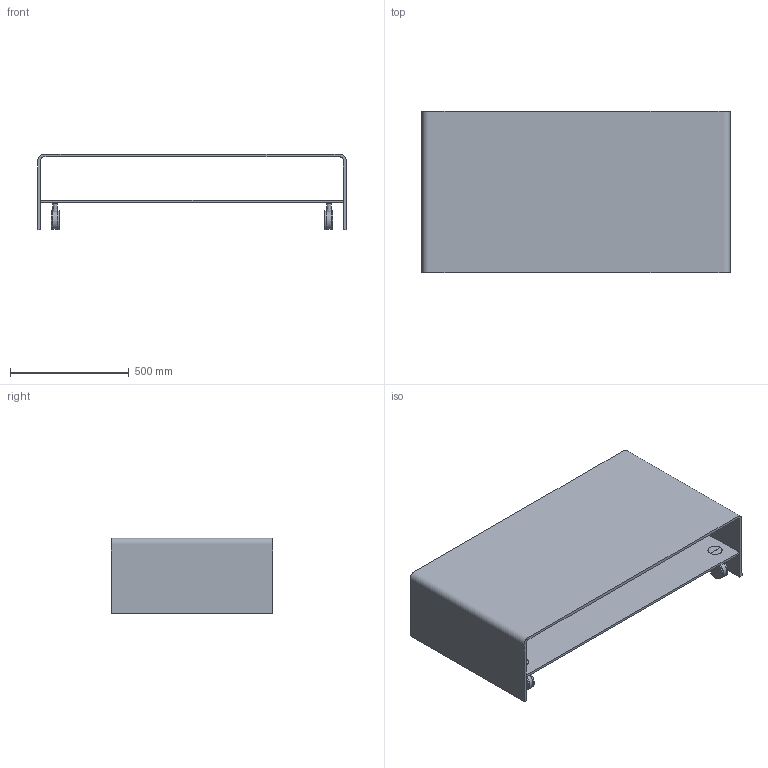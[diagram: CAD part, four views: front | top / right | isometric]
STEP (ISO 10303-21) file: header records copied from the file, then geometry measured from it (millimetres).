
FILE_DESCRIPTION(/* description */ (''),/* implementation_level */ '2;1');
FILE_NAME(/* name */ '0175 - Rialto Moving 130x68',/* time_stamp */ '2010-11-04T09:10:13+01:00',/* author */ (''),/* organization */ (''),/* preprocessor_version */ 'ST-DEVELOPER v10',/* originating_system */ '',/* authorisation */ '');
FILE_SCHEMA (('CONFIG_CONTROL_DESIGN'));
Length unit declared in the file: centimetre
Products named in the file (1): 1
Bounding box: 1300 x 680 x 320 mm (x, y, z)
Volume: 18600234.6 mm3; surface area: 4557677.6 mm2
Topology: 18 solids, 18 shells, 140 faces, 264 edges, 152 vertices
Faces by surface type: bspline 98, plane 42
Entity records: 3908 total; most frequent: CARTESIAN_POINT 2204, ORIENTED_EDGE 496, EDGE_CURVE 248, VERTEX_POINT 152, EDGE_LOOP 148, ADVANCED_FACE 140, FACE_OUTER_BOUND 140, B_SPLINE_CURVE_WITH_KNOTS 120
